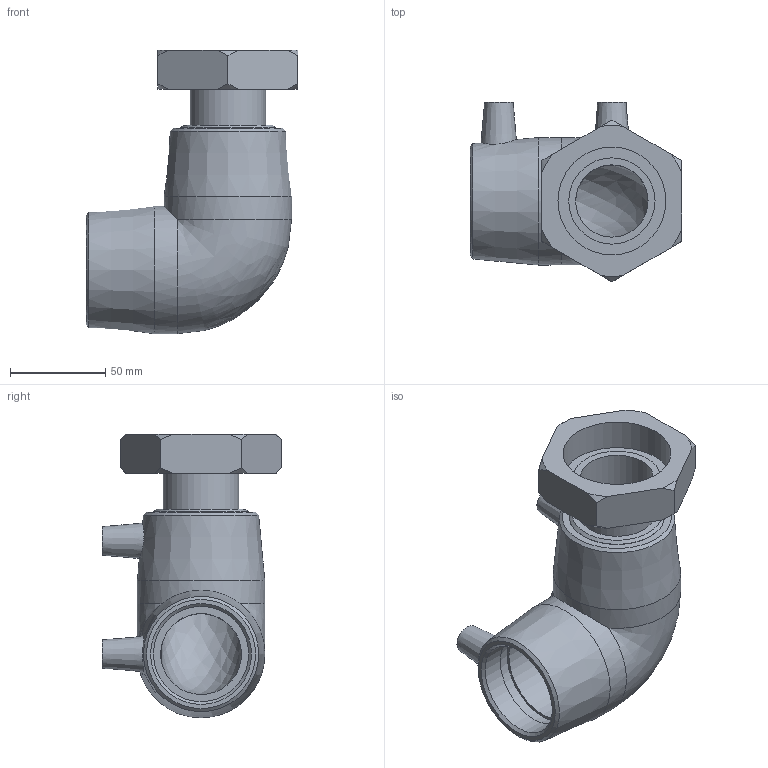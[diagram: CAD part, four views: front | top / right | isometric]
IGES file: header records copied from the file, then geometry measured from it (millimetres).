
Global section: file name: 494504050020.ipt; native system: Autodesk Inventor 2015; preprocessor: unknown; author: KIM; date: 20180426.120818; units: millimetre
Bounding box: 111.3 x 94.49 x 149 mm (x, y, z)
Volume: 314019.7 mm3; surface area: 76540.2 mm2
Topology: 1 solids, 2 shells, 61 faces, 146 edges, 98 vertices
Faces by surface type: plane 23, cone 19, revolution 10, cylinder 8, bspline 1
Full cylindrical faces by diameter (mm): 4 x2, 39.659 x1, 45.325 x1, 50 x2, 67 x2
